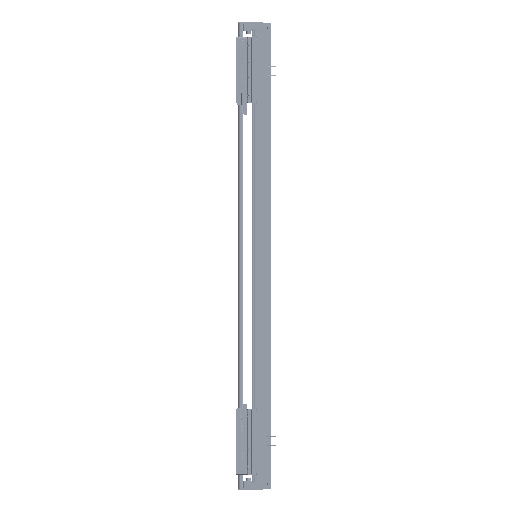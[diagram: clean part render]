
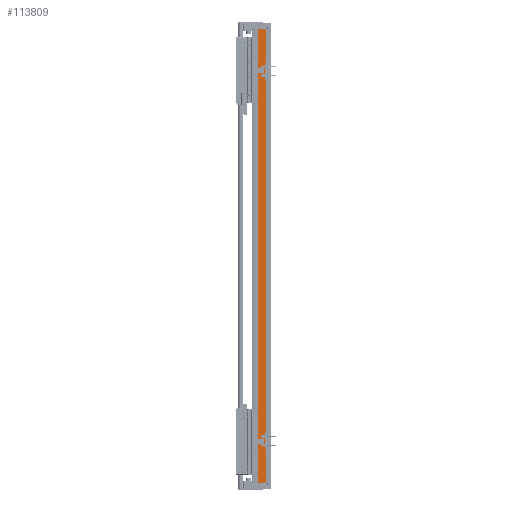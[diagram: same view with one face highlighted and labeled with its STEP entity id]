
A CAD part, left-side view. The second image highlights one B-rep face of the part: STEP entity #113809.
In plain terms, the highlighted planar face has unit normal (-1, 0, 0).
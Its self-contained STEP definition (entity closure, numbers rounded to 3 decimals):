
#158 = PLANE ( 'NONE',  #75039 ) ;
#636 = EDGE_LOOP ( 'NONE', ( #58593, #120305, #23210, #59269 ) ) ;
#11808 = DIRECTION ( 'NONE',  ( 0., -1., 0. ) ) ;
#12045 = LINE ( 'NONE', #110438, #158883 ) ;
#16504 = VERTEX_POINT ( 'NONE', #146779 ) ;
#23210 = ORIENTED_EDGE ( 'NONE', *, *, #148620, .F. ) ;
#25965 = DIRECTION ( 'NONE',  ( 0., 1., 0. ) ) ;
#27560 = CARTESIAN_POINT ( 'NONE',  ( -97.5, 36.95, 660. ) ) ;
#35848 = VERTEX_POINT ( 'NONE', #71596 ) ;
#37017 = VECTOR ( 'NONE', #39686, 1000. ) ;
#38878 = LINE ( 'NONE', #135700, #37017 ) ;
#39686 = DIRECTION ( 'NONE',  ( 0., 0., -1. ) ) ;
#46068 = CARTESIAN_POINT ( 'NONE',  ( -97.5, 14.45, 660. ) ) ;
#49183 = DIRECTION ( 'NONE',  ( 0., -1., 0. ) ) ;
#58404 = EDGE_CURVE ( 'NONE', #63676, #16504, #38878, .T. ) ;
#58593 = ORIENTED_EDGE ( 'NONE', *, *, #91678, .T. ) ;
#59269 = ORIENTED_EDGE ( 'NONE', *, *, #125907, .T. ) ;
#60170 = LINE ( 'NONE', #109346, #154382 ) ;
#61458 = DIRECTION ( 'NONE',  ( 1., 0., 0. ) ) ;
#63676 = VERTEX_POINT ( 'NONE', #46068 ) ;
#70756 = LINE ( 'NONE', #158632, #76561 ) ;
#71596 = CARTESIAN_POINT ( 'NONE',  ( -97.5, 36.95, -660. ) ) ;
#75039 = AXIS2_PLACEMENT_3D ( 'NONE', #27560, #61458, #25965 ) ;
#76561 = VECTOR ( 'NONE', #11808, 1000. ) ;
#91678 = EDGE_CURVE ( 'NONE', #35848, #16504, #12045, .T. ) ;
#101162 = VERTEX_POINT ( 'NONE', #142945 ) ;
#109346 = CARTESIAN_POINT ( 'NONE',  ( -97.5, 36.95, 660. ) ) ;
#110438 = CARTESIAN_POINT ( 'NONE',  ( -97.5, 36.95, -660. ) ) ;
#113809 = ADVANCED_FACE ( 'NONE', ( #137226 ), #158, .F. ) ;
#120305 = ORIENTED_EDGE ( 'NONE', *, *, #58404, .F. ) ;
#125907 = EDGE_CURVE ( 'NONE', #101162, #35848, #60170, .T. ) ;
#135700 = CARTESIAN_POINT ( 'NONE',  ( -97.5, 14.45, 660. ) ) ;
#137226 = FACE_OUTER_BOUND ( 'NONE', #636, .T. ) ;
#142945 = CARTESIAN_POINT ( 'NONE',  ( -97.5, 36.95, 660. ) ) ;
#146479 = DIRECTION ( 'NONE',  ( 0., 0., -1. ) ) ;
#146779 = CARTESIAN_POINT ( 'NONE',  ( -97.5, 14.45, -660. ) ) ;
#148620 = EDGE_CURVE ( 'NONE', #101162, #63676, #70756, .T. ) ;
#154382 = VECTOR ( 'NONE', #146479, 1000. ) ;
#158632 = CARTESIAN_POINT ( 'NONE',  ( -97.5, 36.95, 660. ) ) ;
#158883 = VECTOR ( 'NONE', #49183, 1000. ) ;
